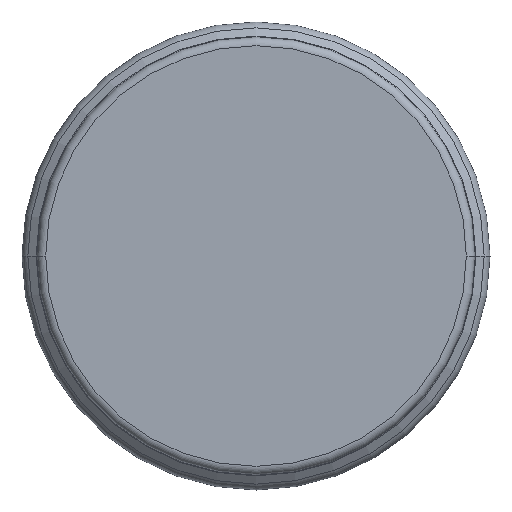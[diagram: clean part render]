
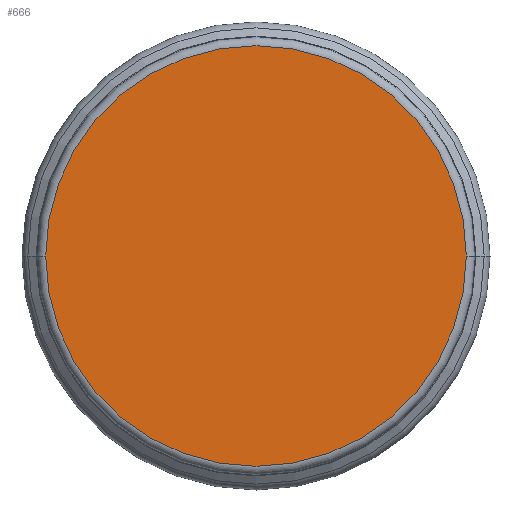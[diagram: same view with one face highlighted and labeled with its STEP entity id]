
A CAD part, left-side view. The second image highlights one B-rep face of the part: STEP entity #666.
In plain terms, the highlighted planar face has unit normal (-1, 0, 0).
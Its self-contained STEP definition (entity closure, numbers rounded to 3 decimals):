
#243=CARTESIAN_POINT('',(0.,0.,0.));
#244=DIRECTION('',(-1.,0.,0.));
#245=DIRECTION('',(0.,1.,0.));
#246=AXIS2_PLACEMENT_3D('',#243,#244,#245);
#251=CARTESIAN_POINT('',(0.,0.,0.));
#252=DIRECTION('',(1.,0.,0.));
#253=DIRECTION('',(0.,1.,0.));
#254=AXIS2_PLACEMENT_3D('',#251,#252,#253);
#410=CARTESIAN_POINT('',(0.,48.75,0.));
#412=VERTEX_POINT('',#410);
#416=CARTESIAN_POINT('',(0.,-48.75,0.));
#418=VERTEX_POINT('',#416);
#657=CARTESIAN_POINT('',(0.,0.,0.));
#658=DIRECTION('',(1.,0.,0.));
#659=DIRECTION('',(0.,-1.,0.));
#660=AXIS2_PLACEMENT_3D('',#657,#658,#659);
#661=PLANE('',#660);
#662=ORIENTED_EDGE('',*,*,#650,.F.);
#663=ORIENTED_EDGE('',*,*,#639,.T.);
#664=EDGE_LOOP('',(#662,#663));
#665=FACE_OUTER_BOUND('',#664,.F.);
#247=CIRCLE('',#246,48.75);
#255=CIRCLE('',#254,48.75);
#639=EDGE_CURVE('',#412,#418,#255,.T.);
#650=EDGE_CURVE('',#412,#418,#247,.T.);
#666=ADVANCED_FACE('',(#665),#661,.F.);
